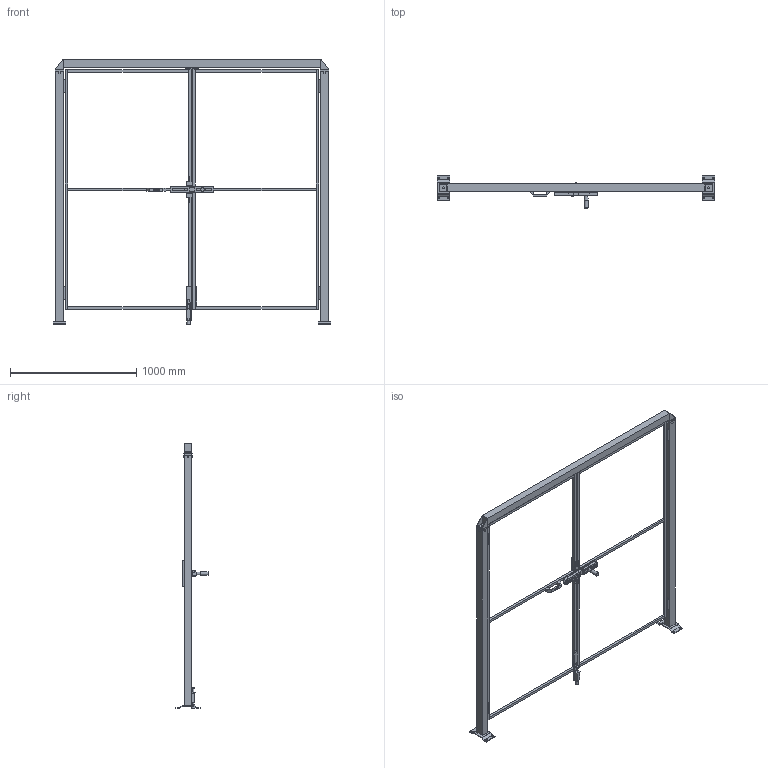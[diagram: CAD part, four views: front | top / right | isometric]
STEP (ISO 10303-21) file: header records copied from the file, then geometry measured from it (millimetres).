
FILE_DESCRIPTION(/* description */ (''),/* implementation_level */ '2;1');
FILE_NAME(/* name */ 'C:\SafeGuarding\ELABORATI\Drawing2_2025-02-03-07-50-26.stp',/* time_stamp */ '2025-02-03T07:50:30+01:00',/* author */ ('admin'),/* organization */ (''),/* preprocessor_version */ 'ST-DEVELOPER v18.1',/* originating_system */ 'AutoCAD Mechanical',/* authorisation */ '');
FILE_SCHEMA (('AUTOMOTIVE_DESIGN { 1 0 10303 214 3 1 1 }'));
Length unit declared in the file: inch
Products named in the file (3): Product; R_VFPA.REPE20.10001900; VFDA.BDCCDR3.%2020
Assembly tree (3 placements, depth 2):
  Product
    R_VFPA.REPE20.10001900  x2
    VFDA.BDCCDR3.%2020
Bounding box: 2205 x 255.8 x 2100.5 mm (x, y, z)
Volume: 28357034.6 mm3; surface area: 3117767.4 mm2
Topology: 35 solids, 46 shells, 428 faces, 1337 edges, 1254 vertices
Faces by surface type: plane 384, cylinder 42, cone 2
Full cylindrical faces by diameter (mm): 11 x25, 12 x1, 14 x2, 24 x1, 30 x1
Entity records: 13835 total; most frequent: CARTESIAN_POINT 2846, DIRECTION 2101, ORIENTED_EDGE 2056, EDGE_CURVE 1077, LINE 995, VECTOR 995, VERTEX_POINT 755, AXIS2_PLACEMENT_3D 553
